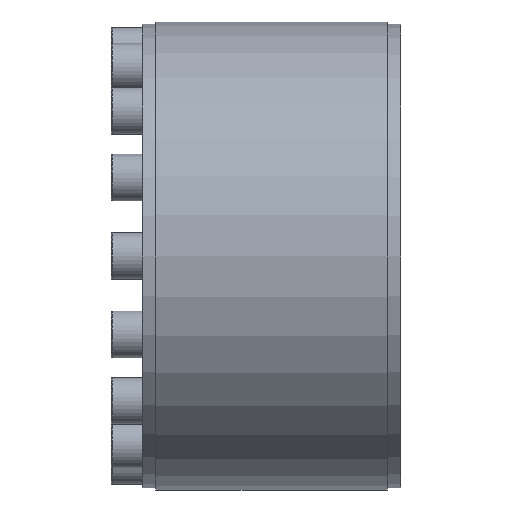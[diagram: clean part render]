
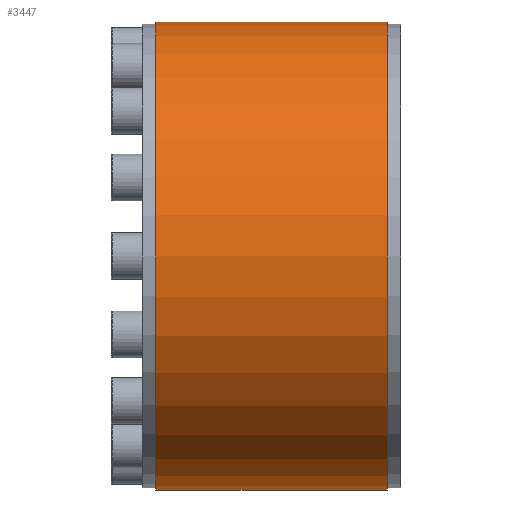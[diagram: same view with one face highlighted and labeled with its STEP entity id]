
A CAD part, left-side view. The second image highlights one B-rep face of the part: STEP entity #3447.
In plain terms, the highlighted cylindrical face has radius 105 mm (diameter 210 mm), a partial arc.
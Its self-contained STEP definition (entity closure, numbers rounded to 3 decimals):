
#12 = CARTESIAN_POINT ( 'NONE',  ( 0., 52., 0. ) ) ;
#269 = CIRCLE ( 'NONE', #1603, 105. ) ;
#390 = CARTESIAN_POINT ( 'NONE',  ( 0., 52., 105. ) ) ;
#392 = EDGE_CURVE ( 'NONE', #1891, #5345, #1059, .T. ) ;
#447 = CARTESIAN_POINT ( 'NONE',  ( 0., -52., 105. ) ) ;
#520 = CARTESIAN_POINT ( 'NONE',  ( 0., 52., -105. ) ) ;
#601 = CARTESIAN_POINT ( 'NONE',  ( 0., -52., -105. ) ) ;
#733 = CARTESIAN_POINT ( 'NONE',  ( 0., 0., 105. ) ) ;
#749 = DIRECTION ( 'NONE',  ( 0., -1., 0. ) ) ;
#770 = EDGE_CURVE ( 'NONE', #5137, #1291, #4981, .T. ) ;
#840 = VECTOR ( 'NONE', #1190, 1000. ) ;
#843 = ORIENTED_EDGE ( 'NONE', *, *, #3307, .F. ) ;
#918 = DIRECTION ( 'NONE',  ( 0., 0., -1. ) ) ;
#970 = AXIS2_PLACEMENT_3D ( 'NONE', #1718, #749, #1196 ) ;
#1059 = LINE ( 'NONE', #1517, #4354 ) ;
#1061 = FACE_OUTER_BOUND ( 'NONE', #2892, .T. ) ;
#1190 = DIRECTION ( 'NONE',  ( 0., -1., 0. ) ) ;
#1196 = DIRECTION ( 'NONE',  ( 0., 0., -1. ) ) ;
#1291 = VERTEX_POINT ( 'NONE', #447 ) ;
#1292 = EDGE_CURVE ( 'NONE', #5137, #1891, #269, .T. ) ;
#1334 = ORIENTED_EDGE ( 'NONE', *, *, #1292, .T. ) ;
#1517 = CARTESIAN_POINT ( 'NONE',  ( 0., 0., -105. ) ) ;
#1603 = AXIS2_PLACEMENT_3D ( 'NONE', #12, #3579, #918 ) ;
#1718 = CARTESIAN_POINT ( 'NONE',  ( 0., 0., 0. ) ) ;
#1891 = VERTEX_POINT ( 'NONE', #520 ) ;
#1959 = ORIENTED_EDGE ( 'NONE', *, *, #770, .F. ) ;
#2838 = AXIS2_PLACEMENT_3D ( 'NONE', #4779, #4320, #2989 ) ;
#2853 = ORIENTED_EDGE ( 'NONE', *, *, #392, .T. ) ;
#2892 = EDGE_LOOP ( 'NONE', ( #1959, #1334, #2853, #843 ) ) ;
#2989 = DIRECTION ( 'NONE',  ( 0., 0., -1. ) ) ;
#3307 = EDGE_CURVE ( 'NONE', #1291, #5345, #3603, .T. ) ;
#3447 = ADVANCED_FACE ( 'NONE', ( #1061 ), #3707, .T. ) ;
#3579 = DIRECTION ( 'NONE',  ( 0., -1., 0. ) ) ;
#3603 = CIRCLE ( 'NONE', #2838, 105. ) ;
#3707 = CYLINDRICAL_SURFACE ( 'NONE', #970, 105. ) ;
#4320 = DIRECTION ( 'NONE',  ( 0., -1., 0. ) ) ;
#4354 = VECTOR ( 'NONE', #5104, 1000. ) ;
#4779 = CARTESIAN_POINT ( 'NONE',  ( 0., -52., 0. ) ) ;
#4981 = LINE ( 'NONE', #733, #840 ) ;
#5104 = DIRECTION ( 'NONE',  ( 0., -1., 0. ) ) ;
#5137 = VERTEX_POINT ( 'NONE', #390 ) ;
#5345 = VERTEX_POINT ( 'NONE', #601 ) ;
